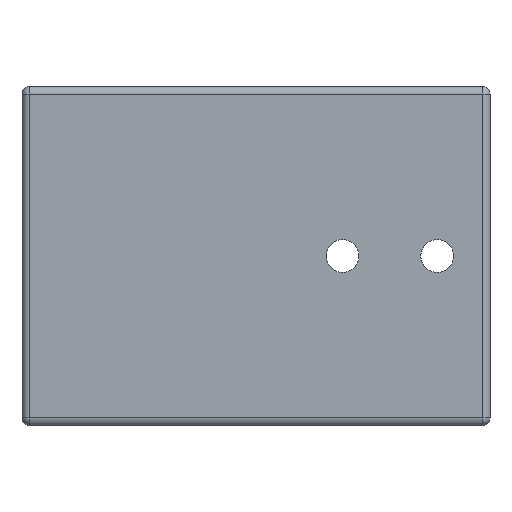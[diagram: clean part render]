
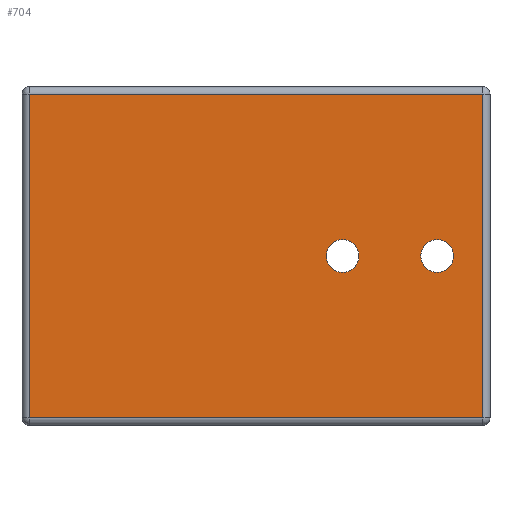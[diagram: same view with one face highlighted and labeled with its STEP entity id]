
A CAD part, front view. The second image highlights one B-rep face of the part: STEP entity #704.
In plain terms, the highlighted planar face has unit normal (0, -1, 0).
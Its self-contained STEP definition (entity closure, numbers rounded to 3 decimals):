
#42 = AXIS2_PLACEMENT_3D ( 'NONE', #1743, #1729, #1912 ) ;
#116 = CARTESIAN_POINT ( 'NONE',  ( -40.5, 0., -46.5 ) ) ;
#119 = DIRECTION ( 'NONE',  ( 0., -1., 0. ) ) ;
#194 = VECTOR ( 'NONE', #1338, 1000. ) ;
#198 = EDGE_CURVE ( 'NONE', #2048, #721, #753, .T. ) ;
#204 = CARTESIAN_POINT ( 'NONE',  ( 0., 0., -91. ) ) ;
#210 = EDGE_CURVE ( 'NONE', #1009, #2159, #1807, .T. ) ;
#220 = DIRECTION ( 'NONE',  ( -1., 0., 0. ) ) ;
#330 = ORIENTED_EDGE ( 'NONE', *, *, #210, .F. ) ;
#348 = EDGE_CURVE ( 'NONE', #1259, #1072, #2057, .T. ) ;
#401 = DIRECTION ( 'NONE',  ( 0., 0., -1. ) ) ;
#421 = ORIENTED_EDGE ( 'NONE', *, *, #2223, .T. ) ;
#464 = AXIS2_PLACEMENT_3D ( 'NONE', #116, #1367, #648 ) ;
#475 = ORIENTED_EDGE ( 'NONE', *, *, #1101, .T. ) ;
#486 = LINE ( 'NONE', #612, #1181 ) ;
#489 = CIRCLE ( 'NONE', #494, 4.5 ) ;
#494 = AXIS2_PLACEMENT_3D ( 'NONE', #1187, #119, #2097 ) ;
#574 = EDGE_CURVE ( 'NONE', #721, #2048, #927, .T. ) ;
#590 = ORIENTED_EDGE ( 'NONE', *, *, #1793, .F. ) ;
#602 = CARTESIAN_POINT ( 'NONE',  ( -14.5, 0., -51. ) ) ;
#612 = CARTESIAN_POINT ( 'NONE',  ( 0., 0., -2. ) ) ;
#648 = DIRECTION ( 'NONE',  ( 1., 0., 0. ) ) ;
#654 = LINE ( 'NONE', #1291, #1844 ) ;
#663 = CARTESIAN_POINT ( 'NONE',  ( -126.583, 0., -91. ) ) ;
#704 = ADVANCED_FACE ( 'NONE', ( #854, #1786, #1302 ), #1597, .T. ) ;
#721 = VERTEX_POINT ( 'NONE', #883 ) ;
#752 = ORIENTED_EDGE ( 'NONE', *, *, #348, .T. ) ;
#753 = CIRCLE ( 'NONE', #464, 4.5 ) ;
#770 = EDGE_LOOP ( 'NONE', ( #1051, #2244 ) ) ;
#779 = CARTESIAN_POINT ( 'NONE',  ( -14.5, 0., -42. ) ) ;
#787 = CARTESIAN_POINT ( 'NONE',  ( -2., 0., -93. ) ) ;
#854 = FACE_BOUND ( 'NONE', #770, .T. ) ;
#883 = CARTESIAN_POINT ( 'NONE',  ( -40.5, 0., -42. ) ) ;
#893 = VERTEX_POINT ( 'NONE', #2151 ) ;
#909 = EDGE_CURVE ( 'NONE', #893, #1259, #654, .T. ) ;
#923 = VERTEX_POINT ( 'NONE', #1091 ) ;
#927 = CIRCLE ( 'NONE', #1796, 4.5 ) ;
#996 = AXIS2_PLACEMENT_3D ( 'NONE', #1225, #1247, #1608 ) ;
#997 = CARTESIAN_POINT ( 'NONE',  ( -2., 0., -91. ) ) ;
#1009 = VERTEX_POINT ( 'NONE', #602 ) ;
#1035 = DIRECTION ( 'NONE',  ( 1., 0., 0. ) ) ;
#1051 = ORIENTED_EDGE ( 'NONE', *, *, #574, .F. ) ;
#1072 = VERTEX_POINT ( 'NONE', #997 ) ;
#1091 = CARTESIAN_POINT ( 'NONE',  ( -2., 0., -2. ) ) ;
#1101 = EDGE_CURVE ( 'NONE', #1072, #923, #1361, .T. ) ;
#1181 = VECTOR ( 'NONE', #220, 1000. ) ;
#1187 = CARTESIAN_POINT ( 'NONE',  ( -14.5, 0., -46.5 ) ) ;
#1225 = CARTESIAN_POINT ( 'NONE',  ( 0., 0., -93. ) ) ;
#1247 = DIRECTION ( 'NONE',  ( 0., -1., 0. ) ) ;
#1259 = VERTEX_POINT ( 'NONE', #663 ) ;
#1291 = CARTESIAN_POINT ( 'NONE',  ( -126.583, 0., -93. ) ) ;
#1302 = FACE_OUTER_BOUND ( 'NONE', #1952, .T. ) ;
#1338 = DIRECTION ( 'NONE',  ( 0., 0., 1. ) ) ;
#1361 = LINE ( 'NONE', #787, #194 ) ;
#1365 = CARTESIAN_POINT ( 'NONE',  ( -40.5, 0., -46.5 ) ) ;
#1367 = DIRECTION ( 'NONE',  ( 0., -1., 0. ) ) ;
#1376 = DIRECTION ( 'NONE',  ( 0., -1., 0. ) ) ;
#1456 = CARTESIAN_POINT ( 'NONE',  ( -40.5, 0., -51. ) ) ;
#1574 = EDGE_LOOP ( 'NONE', ( #590, #330 ) ) ;
#1597 = PLANE ( 'NONE',  #996 ) ;
#1608 = DIRECTION ( 'NONE',  ( 1., 0., 0. ) ) ;
#1729 = DIRECTION ( 'NONE',  ( 0., -1., 0. ) ) ;
#1743 = CARTESIAN_POINT ( 'NONE',  ( -14.5, 0., -46.5 ) ) ;
#1786 = FACE_BOUND ( 'NONE', #1574, .T. ) ;
#1793 = EDGE_CURVE ( 'NONE', #2159, #1009, #489, .T. ) ;
#1796 = AXIS2_PLACEMENT_3D ( 'NONE', #1365, #1376, #1035 ) ;
#1805 = ORIENTED_EDGE ( 'NONE', *, *, #909, .T. ) ;
#1807 = CIRCLE ( 'NONE', #42, 4.5 ) ;
#1844 = VECTOR ( 'NONE', #401, 1000. ) ;
#1853 = DIRECTION ( 'NONE',  ( 1., 0., 0. ) ) ;
#1912 = DIRECTION ( 'NONE',  ( 1., 0., 0. ) ) ;
#1952 = EDGE_LOOP ( 'NONE', ( #752, #475, #421, #1805 ) ) ;
#2029 = VECTOR ( 'NONE', #1853, 1000. ) ;
#2048 = VERTEX_POINT ( 'NONE', #1456 ) ;
#2057 = LINE ( 'NONE', #204, #2029 ) ;
#2097 = DIRECTION ( 'NONE',  ( 1., 0., 0. ) ) ;
#2151 = CARTESIAN_POINT ( 'NONE',  ( -126.583, 0., -2. ) ) ;
#2159 = VERTEX_POINT ( 'NONE', #779 ) ;
#2223 = EDGE_CURVE ( 'NONE', #923, #893, #486, .T. ) ;
#2244 = ORIENTED_EDGE ( 'NONE', *, *, #198, .F. ) ;
